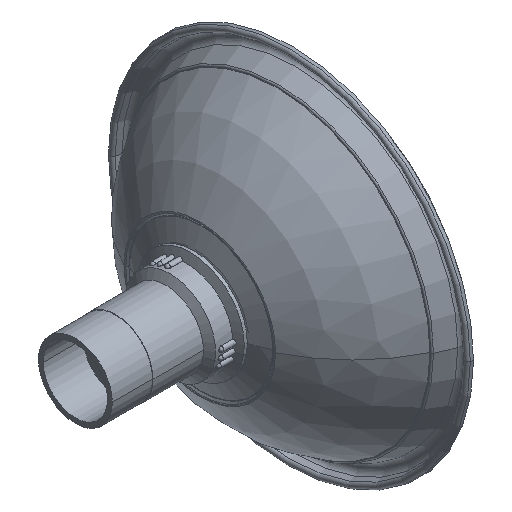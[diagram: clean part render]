
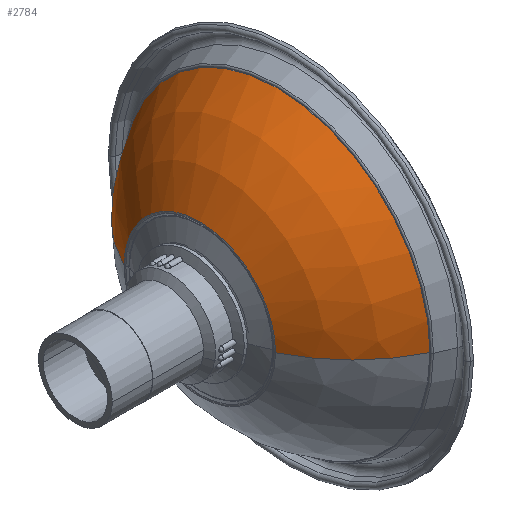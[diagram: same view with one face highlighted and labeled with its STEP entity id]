
A CAD part, isometric view. The second image highlights one B-rep face of the part: STEP entity #2784.
In plain terms, the highlighted spherical face has radius 178 mm.
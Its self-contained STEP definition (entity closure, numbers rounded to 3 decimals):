
#1808=CARTESIAN_POINT('',(0.,103.943,0.));
#1809=DIRECTION('',(0.,-1.,0.));
#1810=DIRECTION('',(1.,0.,0.));
#1811=AXIS2_PLACEMENT_3D('',#1808,#1809,#1810);
#1824=CARTESIAN_POINT('',(0.,-55.524,0.));
#1825=DIRECTION('',(0.,0.,1.));
#1826=DIRECTION('',(0.897,0.443,0.));
#1827=AXIS2_PLACEMENT_3D('',#1824,#1825,#1826);
#1832=CARTESIAN_POINT('',(0.,23.279,0.));
#1833=DIRECTION('',(0.,-1.,0.));
#1834=DIRECTION('',(1.,0.,0.));
#1835=AXIS2_PLACEMENT_3D('',#1832,#1833,#1834);
#1840=CARTESIAN_POINT('',(0.,-55.524,0.));
#1841=DIRECTION('',(0.,0.,-1.));
#1842=DIRECTION('',(-0.897,0.443,0.));
#1843=AXIS2_PLACEMENT_3D('',#1840,#1841,#1842);
#2531=CARTESIAN_POINT('',(159.606,23.279,0.));
#2533=VERTEX_POINT('',#2531);
#2534=CARTESIAN_POINT('',(79.083,103.943,0.));
#2535=VERTEX_POINT('',#2534);
#2557=CARTESIAN_POINT('',(-159.606,23.279,
0.));
#2559=VERTEX_POINT('',#2557);
#2560=CARTESIAN_POINT('',(-79.083,103.943,
0.));
#2561=VERTEX_POINT('',#2560);
#2770=CARTESIAN_POINT('',(0.,-55.524,0.));
#2771=DIRECTION('',(0.,1.,0.));
#2772=DIRECTION('',(1.,0.,0.));
#2773=AXIS2_PLACEMENT_3D('',#2770,#2771,#2772);
#2774=SPHERICAL_SURFACE('',#2773,178.);
#2776=ORIENTED_EDGE('',*,*,#2775,.F.);
#2778=ORIENTED_EDGE('',*,*,#2777,.T.);
#2780=ORIENTED_EDGE('',*,*,#2779,.T.);
#2781=ORIENTED_EDGE('',*,*,#2763,.F.);
#2782=EDGE_LOOP('',(#2776,#2778,#2780,#2781));
#2783=FACE_OUTER_BOUND('',#2782,.F.);
#1812=CIRCLE('',#1811,79.083);
#1828=CIRCLE('',#1827,178.);
#1836=CIRCLE('',#1835,159.606);
#1844=CIRCLE('',#1843,178.);
#2763=EDGE_CURVE('',#2535,#2561,#1812,.T.);
#2775=EDGE_CURVE('',#2533,#2535,#1828,.T.);
#2777=EDGE_CURVE('',#2533,#2559,#1836,.T.);
#2779=EDGE_CURVE('',#2559,#2561,#1844,.T.);
#2784=ADVANCED_FACE('',(#2783),#2774,.T.);
